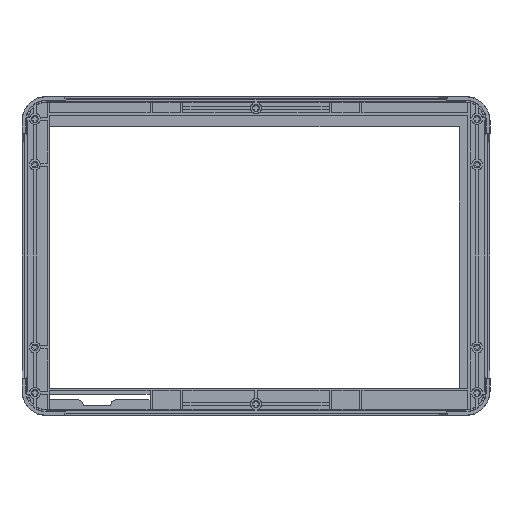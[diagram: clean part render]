
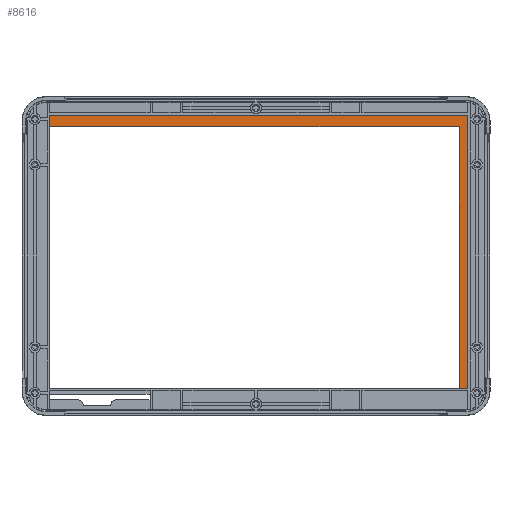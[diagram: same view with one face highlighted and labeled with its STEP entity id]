
A CAD part, front view. The second image highlights one B-rep face of the part: STEP entity #8616.
In plain terms, the highlighted planar face has unit normal (0, -1, 0).
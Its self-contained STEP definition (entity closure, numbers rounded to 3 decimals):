
#2433=DIRECTION('',(0.,0.,1.));
#2434=VECTOR('',#2433,143.13);
#2435=CARTESIAN_POINT('',(111.23,9.25,-72.45));
#2436=LINE('',#2435,#2434);
#2449=DIRECTION('',(0.,0.,-1.));
#2450=VECTOR('',#2449,6.47);
#2451=CARTESIAN_POINT('',(-113.,9.25,77.15));
#2452=LINE('',#2451,#2450);
#2453=DIRECTION('',(-1.,0.,0.));
#2454=VECTOR('',#2453,229.);
#2455=CARTESIAN_POINT('',(116.,9.25,77.15));
#2456=LINE('',#2455,#2454);
#2457=DIRECTION('',(0.,0.,1.));
#2458=VECTOR('',#2457,149.6);
#2459=CARTESIAN_POINT('',(116.,9.25,-72.45));
#2460=LINE('',#2459,#2458);
#2461=DIRECTION('',(1.,0.,0.));
#2462=VECTOR('',#2461,4.77);
#2463=CARTESIAN_POINT('',(111.23,9.25,-72.45));
#2464=LINE('',#2463,#2462);
#2465=DIRECTION('',(-1.,0.,0.));
#2466=VECTOR('',#2465,224.23);
#2467=CARTESIAN_POINT('',(111.23,9.25,70.68));
#2468=LINE('',#2467,#2466);
#5150=CARTESIAN_POINT('',(116.,9.25,-72.45));
#5151=CARTESIAN_POINT('',(116.,9.25,77.15));
#5152=VERTEX_POINT('',#5150);
#5153=VERTEX_POINT('',#5151);
#5154=CARTESIAN_POINT('',(-113.,9.25,77.15));
#5155=VERTEX_POINT('',#5154);
#5156=CARTESIAN_POINT('',(111.23,9.25,-72.45));
#5157=CARTESIAN_POINT('',(111.23,9.25,70.68));
#5158=VERTEX_POINT('',#5156);
#5159=VERTEX_POINT('',#5157);
#5160=CARTESIAN_POINT('',(-113.,9.25,70.68));
#5161=VERTEX_POINT('',#5160);
#8599=CARTESIAN_POINT('',(0.,9.25,0.));
#8600=DIRECTION('',(0.,-1.,0.));
#8601=DIRECTION('',(1.,0.,0.));
#8602=AXIS2_PLACEMENT_3D('',#8599,#8600,#8601);
#8603=PLANE('',#8602);
#8604=ORIENTED_EDGE('',*,*,#8586,.T.);
#8606=ORIENTED_EDGE('',*,*,#8605,.T.);
#8608=ORIENTED_EDGE('',*,*,#8607,.F.);
#8610=ORIENTED_EDGE('',*,*,#8609,.F.);
#8612=ORIENTED_EDGE('',*,*,#8611,.F.);
#8613=ORIENTED_EDGE('',*,*,#8556,.F.);
#8614=EDGE_LOOP('',(#8604,#8606,#8608,#8610,#8612,#8613));
#8615=FACE_OUTER_BOUND('',#8614,.F.);
#8556=EDGE_CURVE('',#5158,#5152,#2464,.T.);
#8586=EDGE_CURVE('',#5158,#5159,#2436,.T.);
#8605=EDGE_CURVE('',#5159,#5161,#2468,.T.);
#8607=EDGE_CURVE('',#5155,#5161,#2452,.T.);
#8609=EDGE_CURVE('',#5153,#5155,#2456,.T.);
#8611=EDGE_CURVE('',#5152,#5153,#2460,.T.);
#8616=ADVANCED_FACE('',(#8615),#8603,.T.);
